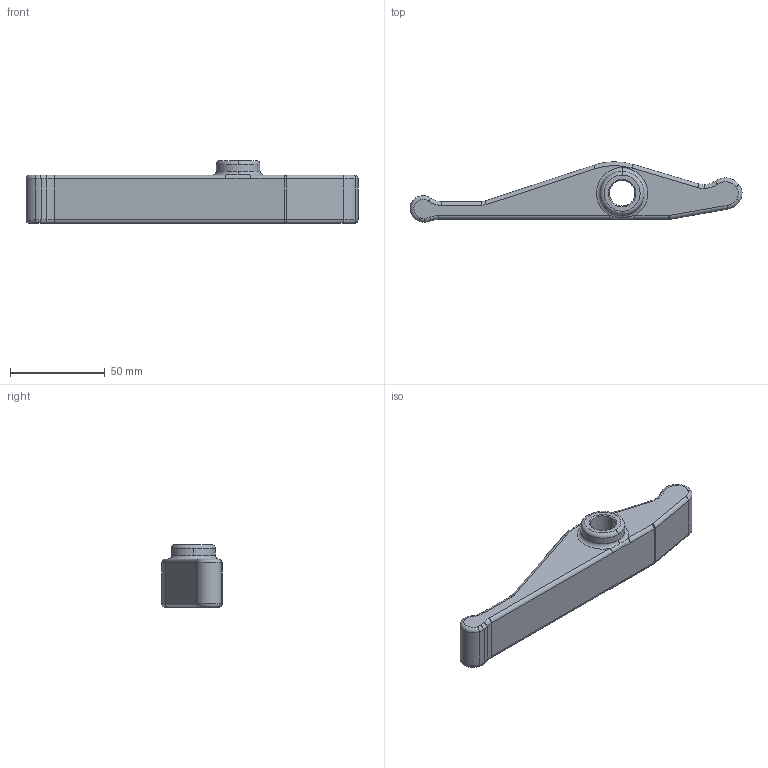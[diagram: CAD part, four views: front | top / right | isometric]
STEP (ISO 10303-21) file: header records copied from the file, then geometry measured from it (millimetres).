
FILE_DESCRIPTION (( 'STEP AP203' ), '1' );
FILE_NAME ('YYDK-500-0003 藷蒛坶蟀裝(500T).STEP', '2026-05-11T08:28:02', ( 'Windows 蚚誧' ), ( '' ), 'SwSTEP 2.0', 'SolidWorks 2020', '' );
FILE_SCHEMA (( 'CONFIG_CONTROL_DESIGN' ));
Length unit declared in the file: millimetre
Products named in the file (1): YYDK-500-0003 藷蒛坶蟀裝(500T)
Bounding box: 174.8 x 31.79 x 33.1 mm (x, y, z)
Volume: 79295.1 mm3; surface area: 17054.4 mm2
Topology: 1 solids, 1 shells, 77 faces, 182 edges, 108 vertices
Faces by surface type: torus 32, cylinder 31, plane 9, cone 4, bspline 1
Entity records: 2385 total; most frequent: DIRECTION 461, CARTESIAN_POINT 438, ORIENTED_EDGE 364, AXIS2_PLACEMENT_3D 205, EDGE_CURVE 182, CIRCLE 128, VERTEX_POINT 108, EDGE_LOOP 80
